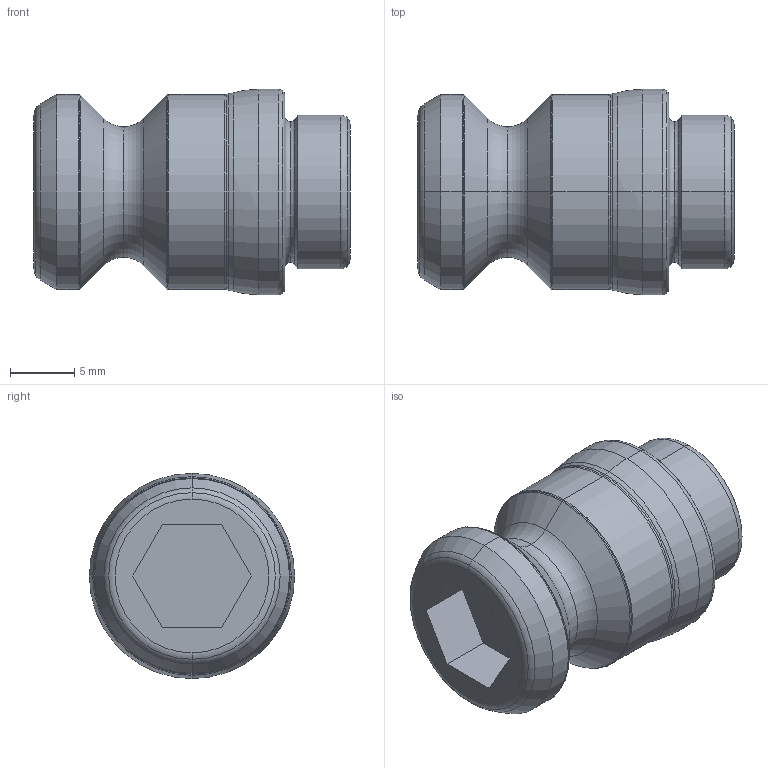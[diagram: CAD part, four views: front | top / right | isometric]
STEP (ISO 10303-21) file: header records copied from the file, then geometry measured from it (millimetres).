
FILE_DESCRIPTION((''),'2;1');
FILE_NAME('PS16F','2025-01-09T18:04:46',('XF'),(''),'CREO PARAMETRIC BY PTC INC, 2023073','CREO PARAMETRIC BY PTC INC, 2023073','');
FILE_SCHEMA(('CONFIG_CONTROL_DESIGN'));
Length unit declared in the file: millimetre
Products named in the file (1): PS16F
Bounding box: 24.64 x 16 x 16 mm (x, y, z)
Volume: 3063.1 mm3; surface area: 1790.2 mm2
Topology: 1 solids, 1 shells, 65 faces, 132 edges, 72 vertices
Faces by surface type: torus 32, plane 11, cylinder 10, cone 10, bspline 2
Entity records: 1780 total; most frequent: DIRECTION 352, CARTESIAN_POINT 323, ORIENTED_EDGE 264, AXIS2_PLACEMENT_3D 157, EDGE_CURVE 132, CIRCLE 94, VERTEX_POINT 72, EDGE_LOOP 68
